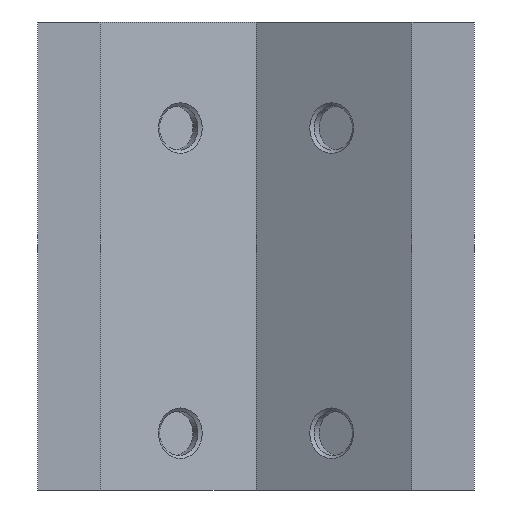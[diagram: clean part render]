
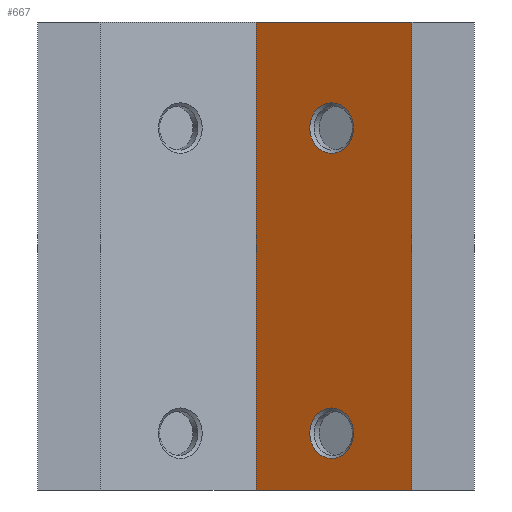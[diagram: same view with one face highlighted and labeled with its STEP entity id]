
A CAD part, front view. The second image highlights one B-rep face of the part: STEP entity #667.
In plain terms, the highlighted planar face has unit normal (-0.5, -0.866, 0).
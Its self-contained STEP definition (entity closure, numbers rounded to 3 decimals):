
#15=FACE_BOUND('',#97,.T.);
#16=FACE_BOUND('',#98,.T.);
#25=PLANE('',#724);
#57=FACE_OUTER_BOUND('',#96,.T.);
#96=EDGE_LOOP('',(#505,#506,#507,#508));
#97=EDGE_LOOP('',(#509));
#98=EDGE_LOOP('',(#510));
#152=LINE('',#1000,#233);
#164=LINE('',#1029,#245);
#165=LINE('',#1030,#246);
#166=LINE('',#1031,#247);
#233=VECTOR('',#798,10.);
#245=VECTOR('',#818,10.);
#246=VECTOR('',#819,10.);
#247=VECTOR('',#820,10.);
#299=CIRCLE('',#722,4.05);
#301=CIRCLE('',#725,4.05);
#328=VERTEX_POINT('',#997);
#329=VERTEX_POINT('',#999);
#339=VERTEX_POINT('',#1021);
#341=VERTEX_POINT('',#1027);
#342=VERTEX_POINT('',#1028);
#343=VERTEX_POINT('',#1032);
#392=EDGE_CURVE('',#328,#329,#152,.T.);
#403=EDGE_CURVE('',#339,#339,#299,.T.);
#406=EDGE_CURVE('',#341,#342,#164,.T.);
#407=EDGE_CURVE('',#342,#329,#165,.T.);
#408=EDGE_CURVE('',#341,#328,#166,.T.);
#409=EDGE_CURVE('',#343,#343,#301,.T.);
#505=ORIENTED_EDGE('',*,*,#406,.T.);
#506=ORIENTED_EDGE('',*,*,#407,.T.);
#507=ORIENTED_EDGE('',*,*,#392,.F.);
#508=ORIENTED_EDGE('',*,*,#408,.F.);
#509=ORIENTED_EDGE('',*,*,#409,.F.);
#510=ORIENTED_EDGE('',*,*,#403,.F.);
#667=ADVANCED_FACE('',(#57,#15,#16),#25,.T.);
#722=AXIS2_PLACEMENT_3D('',#1022,#811,#812);
#724=AXIS2_PLACEMENT_3D('',#1026,#816,#817);
#725=AXIS2_PLACEMENT_3D('',#1033,#821,#822);
#798=DIRECTION('',(0.866,-0.5,0.));
#811=DIRECTION('center_axis',(-0.5,-0.866,0.));
#812=DIRECTION('ref_axis',(-0.866,0.5,0.));
#816=DIRECTION('center_axis',(-0.5,-0.866,0.));
#817=DIRECTION('ref_axis',(0.866,-0.5,0.));
#818=DIRECTION('',(0.866,-0.5,0.));
#819=DIRECTION('',(0.,0.,1.));
#820=DIRECTION('',(0.,0.,1.));
#821=DIRECTION('center_axis',(-0.5,-0.866,0.));
#822=DIRECTION('ref_axis',(-0.866,0.5,0.));
#997=CARTESIAN_POINT('',(0.,14.434,75.));
#999=CARTESIAN_POINT('',(25.,0.,75.));
#1000=CARTESIAN_POINT('',(0.,14.434,75.));
#1021=CARTESIAN_POINT('',(15.632,5.409,58.));
#1022=CARTESIAN_POINT('Origin',(12.124,7.434,58.));
#1026=CARTESIAN_POINT('Origin',(0.,14.434,0.));
#1027=CARTESIAN_POINT('',(0.,14.434,0.));
#1028=CARTESIAN_POINT('',(25.,0.,0.));
#1029=CARTESIAN_POINT('',(0.,14.434,0.));
#1030=CARTESIAN_POINT('',(25.,0.,0.));
#1031=CARTESIAN_POINT('',(0.,14.434,0.));
#1032=CARTESIAN_POINT('',(15.632,5.409,9.1));
#1033=CARTESIAN_POINT('Origin',(12.124,7.434,9.1));
